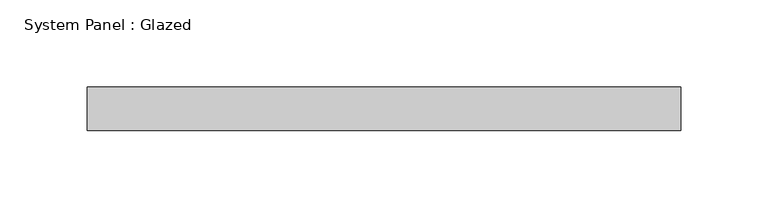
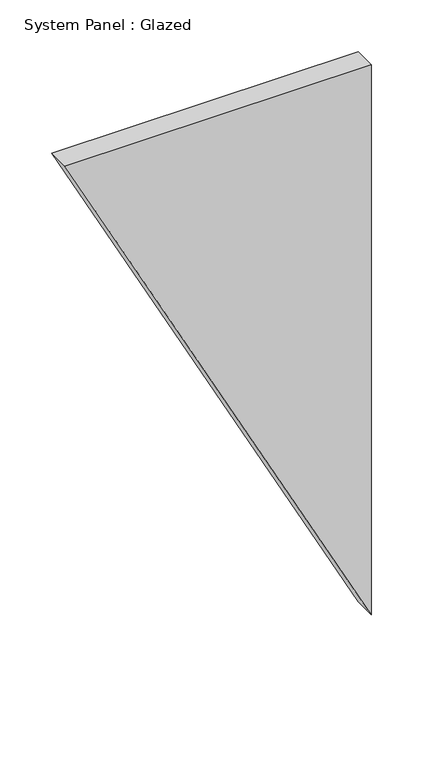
"""IFC4 building model written with IfcOpenShell, lengths in millimetres: plate geometry, System Panel : Glazed."""

from ifc_helpers import new_model, si_unit, frame, origin, place, context, project, spatial, polyline, outline, extrude, source, transform, mapped, element, save


def system_panel_glazed_8b080dad(model_context):
    return source(origin(), model_context, "Body", "SweptSolid", [
        extrude(outline(polyline([(645.7571287, -170.004718), (0.0, 170.004718), (645.7571287, 170.004718), (645.7571287, -170.004718)])), frame((0.0, -12.5, 0.0), z_axis=(0.0, 1.0, 0.0), x_axis=(0.0, 0.0, 1.0)), (0.0, 0.0, 1.0), 25.0),
    ])


if __name__ == "__main__":
    model = new_model("IFC4")
    model_context = context("Model", 3, world=origin())
    ifc_project = project(units=[si_unit("LENGTHUNIT", "METRE", prefix="MILLI")], contexts=[model_context])
    site = spatial("IfcSite", under=ifc_project)
    building = spatial("IfcBuilding", under=site)
    placement = place(None, origin())
    system_panel_glazed_shape = system_panel_glazed_8b080dad(model_context)
    element("IfcPlate", 1, ObjectType="System Panel : Glazed", at=placement, inside=building, context=model_context, shape_type="MappedRepresentation", body=[
        mapped(system_panel_glazed_shape, transform((0.0, 0.0, 0.0), x_axis=(1.0, 0.0, 0.0), y_axis=(0.0, 1.0, 0.0), z_axis=(0.0, 0.0, 1.0))),
    ])
    save(model, "model.ifc")
